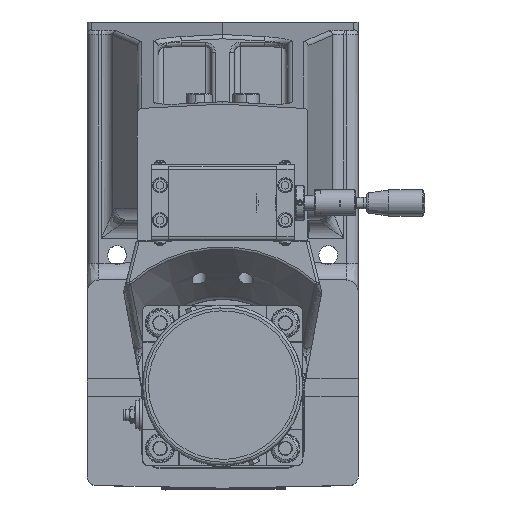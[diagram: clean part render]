
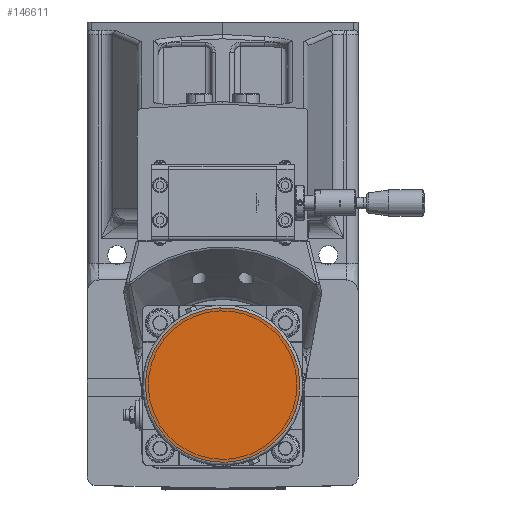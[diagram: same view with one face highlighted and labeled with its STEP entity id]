
A CAD part, top view. The second image highlights one B-rep face of the part: STEP entity #146611.
In plain terms, the highlighted planar face has unit normal (0, 0, 1).
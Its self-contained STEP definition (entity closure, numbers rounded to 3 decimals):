
#38246=PLANE('',#154784);
#45264=FACE_OUTER_BOUND('',#53426,.T.);
#53426=EDGE_LOOP('',(#113161));
#59294=CIRCLE('',#154783,53.);
#66333=VERTEX_POINT('',#219530);
#83201=EDGE_CURVE('',#66333,#66333,#59294,.T.);
#113161=ORIENTED_EDGE('',*,*,#83201,.F.);
#146611=ADVANCED_FACE('',(#45264),#38246,.F.);
#154783=AXIS2_PLACEMENT_3D('',#219531,#173105,#173106);
#154784=AXIS2_PLACEMENT_3D('',#219532,#173107,#173108);
#173105=DIRECTION('center_axis',(0.,0.,
-1.));
#173106=DIRECTION('ref_axis',(-0.924,-0.383,0.));
#173107=DIRECTION('center_axis',(0.,0.,
-1.));
#173108=DIRECTION('ref_axis',(-0.924,-0.383,0.));
#219530=CARTESIAN_POINT('',(48.966,-11.718,697.75));
#219531=CARTESIAN_POINT('Origin',(0.,-32.,
697.75));
#219532=CARTESIAN_POINT('Origin',(0.,-32.,
697.75));
